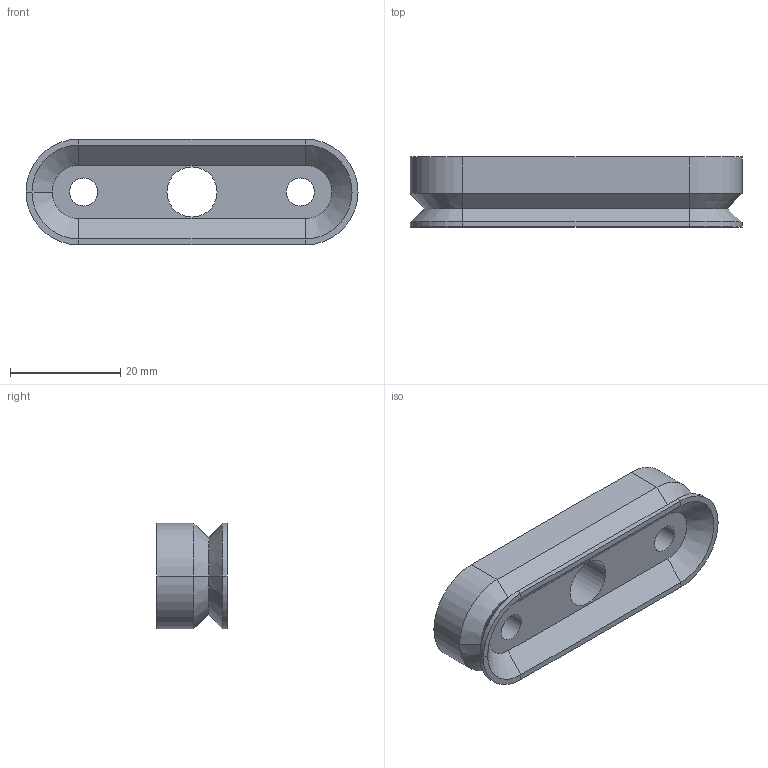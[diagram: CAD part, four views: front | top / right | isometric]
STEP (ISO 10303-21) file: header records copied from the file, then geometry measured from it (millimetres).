
FILE_DESCRIPTION (( 'STEP AP214' ), '1' );
FILE_NAME ('10FO.60X20.002.01.STEP', '2024-09-03T14:52:02', ( '' ), ( '' ), 'SwSTEP 2.0', 'SolidWorks 2018', '' );
FILE_SCHEMA (( 'AUTOMOTIVE_DESIGN' ));
Length unit declared in the file: millimetre
Products named in the file (1): 10FO.60X20.002.01
Bounding box: 60.2 x 12.7 x 19.2 mm (x, y, z)
Volume: 9454.8 mm3; surface area: 4733.8 mm2
Topology: 1 solids, 1 shells, 35 faces, 77 edges, 44 vertices
Faces by surface type: plane 17, cylinder 9, cone 9
Full cylindrical faces by diameter (mm): 5.105 x2, 9.093 x1
Entity records: 979 total; most frequent: DIRECTION 170, CARTESIAN_POINT 148, ORIENTED_EDGE 142, EDGE_CURVE 71, AXIS2_PLACEMENT_3D 63, VECTOR 44, LINE 44, EDGE_LOOP 44
